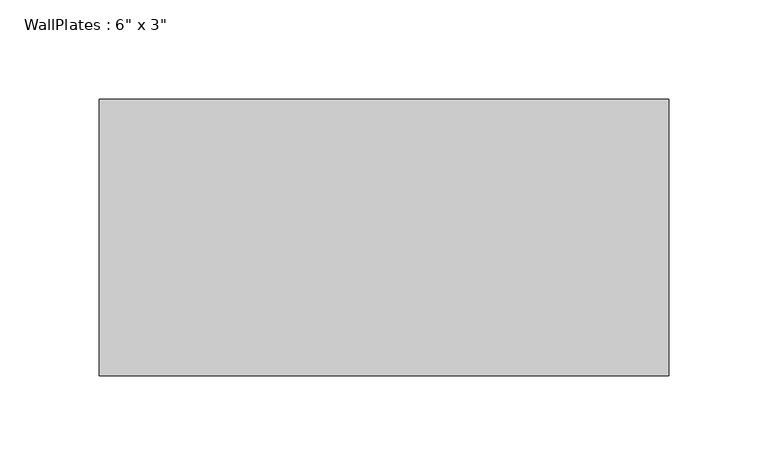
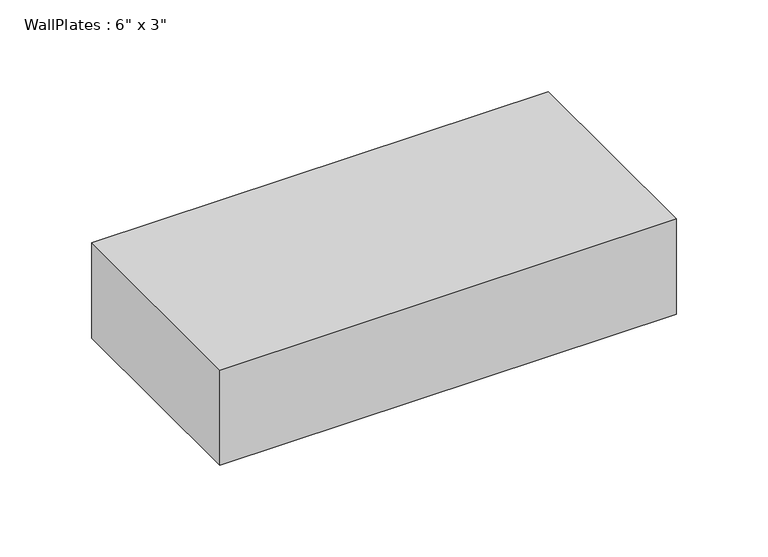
"""IFC4 building model written with IfcOpenShell, lengths in millimetres: beam geometry."""

from ifc_helpers import new_model, si_unit, frame, origin, place, context, project, spatial, polyline, outline, extrude, source, transform, mapped, element, save


def beam_c8284581(model_context):
    return source(origin(), model_context, "Body", "SweptSolid", [
        extrude(outline(polyline([(-143.9333333, -69.85), (-143.9333333, 69.85), (143.9333333, 69.85), (143.9333333, -69.85), (-143.9333333, -69.85)])), frame((0.0, 0.0, -31.75), z_axis=(0.0, 0.0, 1.0), x_axis=(1.0, 0.0, 0.0)), (0.0, 0.0, 1.0), 63.5),
    ])


if __name__ == "__main__":
    model = new_model("IFC4")
    model_context = context("Model", 3, world=origin())
    ifc_project = project(units=[si_unit("LENGTHUNIT", "METRE", prefix="MILLI")], contexts=[model_context])
    site = spatial("IfcSite", under=ifc_project)
    building = spatial("IfcBuilding", under=site)
    placement = place(None, origin())
    beam_shape = beam_c8284581(model_context)
    element("IfcBeam", 1, ObjectType="WallPlates : 6\" x 3\"", at=placement, inside=building, context=model_context, shape_type="MappedRepresentation", body=[
        mapped(beam_shape, transform((0.0, 0.0, 0.0), x_axis=(1.0, 0.0, 0.0), y_axis=(0.0, 1.0, 0.0), z_axis=(0.0, 0.0, 1.0))),
    ])
    save(model, "model.ifc")
